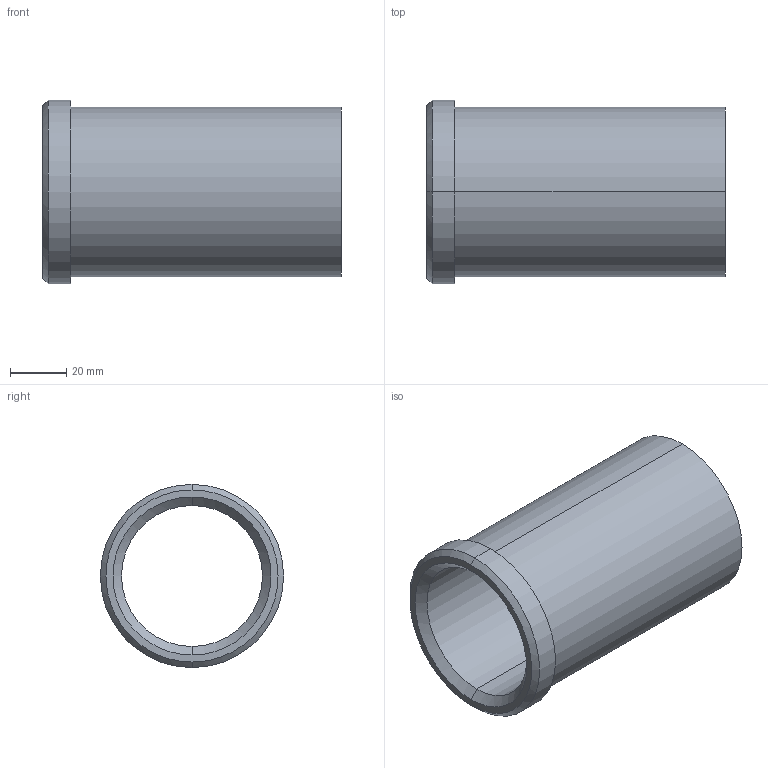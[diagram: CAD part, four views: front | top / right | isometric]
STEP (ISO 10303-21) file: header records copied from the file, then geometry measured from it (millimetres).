
FILE_DESCRIPTION(('CATIA V5 STEP Exchange'),'2;1');
FILE_NAME('C:\Users\Utente\Desktop\IO LAVORO\3D X SITO CF\X SITO\PLASTICA\353\353-50X106.stp','2021-05-14T13:21:49+00:00',('none'),('none'),'CATIA Version 5 Release 20 GA (IN-10)','CATIA V5 STEP AP203','none');
FILE_SCHEMA(('CONFIG_CONTROL_DESIGN'));
Length unit declared in the file: millimetre
Products named in the file (1): 353-50X106
Bounding box: 106 x 65 x 65 mm (x, y, z)
Volume: 95213.7 mm3; surface area: 38855.8 mm2
Topology: 1 solids, 1 shells, 15 faces, 48 edges, 36 vertices
Faces by surface type: cylinder 6, cone 4, plane 3, torus 2
Entity records: 680 total; most frequent: CARTESIAN_POINT 212, ORIENTED_EDGE 96, DIRECTION 70, EDGE_CURVE 48, AXIS2_PLACEMENT_3D 46, VERTEX_POINT 36, CIRCLE 30, EDGE_LOOP 18
